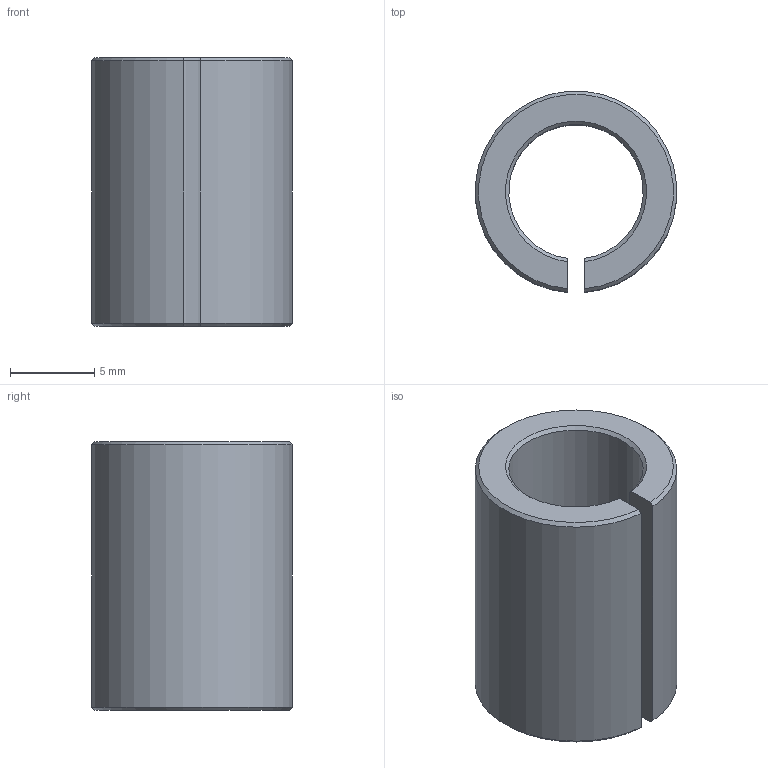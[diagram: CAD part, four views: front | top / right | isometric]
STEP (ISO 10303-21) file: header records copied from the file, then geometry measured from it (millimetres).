
FILE_DESCRIPTION (( 'STEP AP203' ), '1' );
FILE_NAME ('N01868-301(131196).STEP', '2019-09-11T03:46:39', ( '' ), ( '' ), 'SwSTEP 2.0', 'SolidWorks 2018', '' );
FILE_SCHEMA (( 'CONFIG_CONTROL_DESIGN' ));
Length unit declared in the file: millimetre
Products named in the file (2): N01868-301(131196)
Bounding box: 11.96 x 11.96 x 16 mm (x, y, z)
Volume: 970.8 mm3; surface area: 1144.8 mm2
Topology: 1 solids, 1 shells, 10 faces, 24 edges, 16 vertices
Faces by surface type: plane 4, cone 4, cylinder 2
Entity records: 459 total; most frequent: CARTESIAN_POINT 76, ORIENTED_EDGE 48, DIRECTION 48, EDGE_CURVE 24, AXIS2_PLACEMENT_3D 20, PERSON_AND_ORGANIZATION 16, VERTEX_POINT 16, DATE_AND_TIME 10
